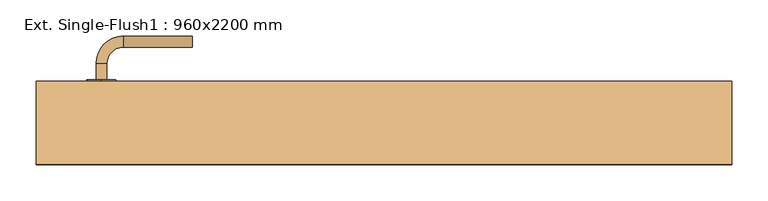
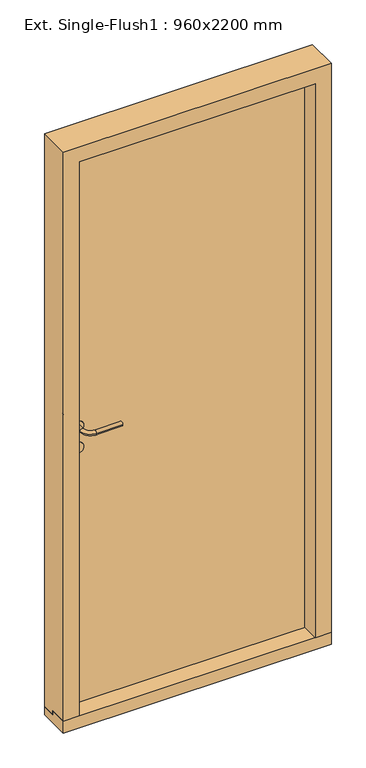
"""IFC4 building model written with IfcOpenShell, lengths in millimetres: door geometry, Ext. Single-Flush1 : 960x2200 mm."""

from ifc_helpers import new_model, si_unit, point, frame, frame_2d, origin, place, context, project, spatial, polyline, circle_curve, ellipse_curve, trimmed, segment, composite_curve, outline, extrude, faceted_brep, source, transform, mapped, element, save
from ifc_brep_helpers import plane_surface, cylinder_surface, revolved_surface, advanced_brep


def ext_single_flush1_960x2200_mm_7c25dc53(model_context):
    return source(origin(), model_context, "Body", "SolidModel", [
        extrude(outline(composite_curve([segment(trimmed(circle_curve(frame_2d((1090.0, -390.0)), 20.0), [point((1070.0, -390.0))], [point((1110.0, -390.0))], False, "CARTESIAN"), True, "CONTINUOUS"), segment(trimmed(circle_curve(frame_2d((1090.0, -390.0)), 20.0), [point((1110.0, -390.0))], [point((1070.0, -390.0))], False, "CARTESIAN"), True, "CONTINUOUS")], self_intersect=False)), frame((0.0, 190.0, 0.0), z_axis=(0.0, 1.0, 0.0), x_axis=(0.0, 0.0, 1.0)), (0.0, 0.0, 1.0), 2.0),
        advanced_brep(
        [(-397.5, 192.0, 1090.0), (-382.5, 192.0, 1090.0), (-397.5, 214.5, 1090.0), (-382.5, 214.5, 1090.0), (-360.0, 237.0, 1090.0), (-360.0, 252.0, 1090.0), (-265.0, 252.0, 1090.0), (-265.0, 237.0, 1090.0)],
        [
            (0, 1, circle_curve(frame((-390.0, 192.0, 1090.0), z_axis=(0.0, -1.0, 0.0), x_axis=(1.0, 0.0, 0.0)), 7.5)),
            (1, 0, circle_curve(frame((-390.0, 192.0, 1090.0), z_axis=(0.0, -1.0, 0.0), x_axis=(1.0, 0.0, 0.0)), 7.5)),
            (0, 2),
            (2, 3, circle_curve(frame((-390.0, 214.5, 1090.0), z_axis=(0.0, -1.0, 0.0), x_axis=(1.0, 0.0, 0.0)), 7.5)),
            (3, 1),
            (3, 2, circle_curve(frame((-390.0, 214.5, 1090.0), z_axis=(0.0, -1.0, 0.0), x_axis=(1.0, 0.0, 0.0)), 7.5)),
            (4, 3, circle_curve(frame((-360.0, 214.5, 1090.0), z_axis=(0.0, 0.0, 1.0), x_axis=(-1.0, 0.0, 0.0)), 22.5)),
            (2, 5, circle_curve(frame((-360.0, 214.5, 1090.0), z_axis=(0.0, 0.0, -1.0), x_axis=(-1.0, 0.0, 0.0)), 37.5)),
            (5, 4, circle_curve(frame((-360.0, 244.5, 1090.0), z_axis=(-1.0, 0.0, 0.0), x_axis=(0.0, -1.0, 0.0)), 7.5)),
            (4, 5, circle_curve(frame((-360.0, 244.5, 1090.0), z_axis=(-1.0, 0.0, 0.0), x_axis=(0.0, -1.0, 0.0)), 7.5)),
            (5, 6),
            (6, 7, circle_curve(frame((-265.0, 244.5, 1090.0), z_axis=(-1.0, 0.0, 0.0), x_axis=(0.0, -1.0, 0.0)), 7.5)),
            (7, 4),
            (7, 6, circle_curve(frame((-265.0, 244.5, 1090.0), z_axis=(-1.0, 0.0, 0.0), x_axis=(0.0, -1.0, 0.0)), 7.5)),
        ],
        [
            plane_surface(frame((-390.0, 192.0, 1090.0), z_axis=(0.0, -1.0, 0.0), x_axis=(0.0, 0.0, -1.0))),
            cylinder_surface(frame((-390.0, 192.0, 1090.0), z_axis=(0.0, -1.0, 0.0), x_axis=(1.0, 0.0, 0.0)), 7.5),
            revolved_surface(trimmed(ellipse_curve(frame((-390.0, 214.5, 1090.0), z_axis=(0.0, -1.0, 0.0), x_axis=(1.0, 0.0, 0.0)), 7.5, 7.5), [point((-397.5, 214.5, 1090.0))], [point((-382.5, 214.5, 1090.0))], True, "CARTESIAN"), (-360.0, 214.5, 1090.0), (0.0, 0.0, -1.0)),
            revolved_surface(trimmed(ellipse_curve(frame((-390.0, 214.5, 1090.0), z_axis=(0.0, -1.0, 0.0), x_axis=(1.0, 0.0, 0.0)), 7.5, 7.5), [point((-382.5, 214.5, 1090.0))], [point((-397.5, 214.5, 1090.0))], True, "CARTESIAN"), (-360.0, 214.5, 1090.0), (0.0, 0.0, -1.0)),
            cylinder_surface(frame((-360.0, 244.5, 1090.0), z_axis=(-1.0, 0.0, 0.0), x_axis=(0.0, -1.0, 0.0)), 7.5),
            plane_surface(frame((-265.0, 244.5, 1090.0), z_axis=(1.0, 0.0, 0.0), x_axis=(0.0, 0.0, -1.0))),
        ],
        [
            (0, [[1, 2]]),
            (1, [[-1, 3, 4, 5]]),
            (1, [[-2, -5, 6, -3]]),
            (2, [[7, -4, 8, 9]]),
            (3, [[-8, -6, -7, 10]]),
            (4, [[-9, 11, 12, 13]]),
            (4, [[-10, -13, 14, -11]]),
            (5, [[-14, -12]]),
        ],
    ),
        extrude(outline(composite_curve([segment(trimmed(circle_curve(frame_2d((1010.0, -390.0)), 20.0), [point((990.0, -390.0))], [point((1030.0, -390.0))], False, "CARTESIAN"), True, "CONTINUOUS"), segment(trimmed(circle_curve(frame_2d((1010.0, -390.0)), 20.0), [point((1030.0, -390.0))], [point((990.0, -390.0))], False, "CARTESIAN"), True, "CONTINUOUS")], self_intersect=False), holes=[composite_curve([segment(trimmed(circle_curve(frame_2d((1015.0, -390.0)), 3.0), [point((1012.4019238, -391.5))], [point((1012.4019238, -388.5))], True, "CARTESIAN"), True, "CONTINUOUS"), segment(polyline([(1012.4019238, -388.5), (1000.0, -388.5), (1000.0, -391.5), (1012.4019238, -391.5)]), True, "CONTINUOUS")], self_intersect=False)]), frame((0.0, 190.0, 0.0), z_axis=(0.0, 1.0, 0.0), x_axis=(0.0, 0.0, 1.0)), (0.0, 0.0, 1.0), 2.0),
        extrude(outline(composite_curve([segment(trimmed(circle_curve(frame_2d((1090.0, -390.0)), 20.0), [point((1070.0, -390.0))], [point((1110.0, -390.0))], False, "CARTESIAN"), True, "CONTINUOUS"), segment(trimmed(circle_curve(frame_2d((1090.0, -390.0)), 20.0), [point((1110.0, -390.0))], [point((1070.0, -390.0))], False, "CARTESIAN"), True, "CONTINUOUS")], self_intersect=False)), frame((0.0, 138.0, 0.0), z_axis=(0.0, 1.0, 0.0), x_axis=(0.0, 0.0, 1.0)), (0.0, 0.0, 1.0), 2.0),
        advanced_brep(
        [(-397.5, 138.0, 1090.0), (-382.5, 138.0, 1090.0), (-382.5, 115.5, 1090.0), (-397.5, 115.5, 1090.0), (-360.0, 93.0, 1090.0), (-360.0, 78.0, 1090.0), (-265.0, 93.0, 1090.0), (-265.0, 78.0, 1090.0)],
        [
            (0, 1, circle_curve(frame((-390.0, 138.0, 1090.0), z_axis=(0.0, 1.0, 0.0), x_axis=(1.0, 0.0, 0.0)), 7.5)),
            (1, 0, circle_curve(frame((-390.0, 138.0, 1090.0), z_axis=(0.0, 1.0, 0.0), x_axis=(1.0, 0.0, 0.0)), 7.5)),
            (1, 2),
            (2, 3, circle_curve(frame((-390.0, 115.5, 1090.0), z_axis=(0.0, 1.0, 0.0), x_axis=(1.0, 0.0, 0.0)), 7.5)),
            (3, 0),
            (3, 2, circle_curve(frame((-390.0, 115.5, 1090.0), z_axis=(0.0, 1.0, 0.0), x_axis=(1.0, 0.0, 0.0)), 7.5)),
            (4, 5, circle_curve(frame((-360.0, 85.5, 1090.0), z_axis=(-1.0, 0.0, 0.0), x_axis=(0.0, 1.0, 0.0)), 7.5)),
            (5, 3, circle_curve(frame((-360.0, 115.5, 1090.0), z_axis=(0.0, 0.0, -1.0), x_axis=(-1.0, 0.0, 0.0)), 37.5)),
            (2, 4, circle_curve(frame((-360.0, 115.5, 1090.0), z_axis=(0.0, 0.0, 1.0), x_axis=(-1.0, 0.0, 0.0)), 22.5)),
            (5, 4, circle_curve(frame((-360.0, 85.5, 1090.0), z_axis=(-1.0, 0.0, 0.0), x_axis=(0.0, 1.0, 0.0)), 7.5)),
            (4, 6),
            (6, 7, circle_curve(frame((-265.0, 85.5, 1090.0), z_axis=(-1.0, 0.0, 0.0), x_axis=(0.0, 1.0, 0.0)), 7.5)),
            (7, 5),
            (7, 6, circle_curve(frame((-265.0, 85.5, 1090.0), z_axis=(-1.0, 0.0, 0.0), x_axis=(0.0, 1.0, 0.0)), 7.5)),
        ],
        [
            plane_surface(frame((-390.0, 138.0, 1090.0), z_axis=(0.0, 1.0, 0.0), x_axis=(0.0, 0.0, -1.0))),
            cylinder_surface(frame((-390.0, 138.0, 1090.0), z_axis=(0.0, 1.0, 0.0), x_axis=(1.0, 0.0, 0.0)), 7.5),
            revolved_surface(trimmed(ellipse_curve(frame((-390.0, 115.5, 1090.0), z_axis=(0.0, -1.0, 0.0), x_axis=(1.0, 0.0, 0.0)), 7.5, 7.5), [point((-397.5, 115.5, 1090.0))], [point((-382.5, 115.5, 1090.0))], True, "CARTESIAN"), (-360.0, 115.5, 1090.0), (0.0, 0.0, -1.0)),
            revolved_surface(trimmed(ellipse_curve(frame((-390.0, 115.5, 1090.0), z_axis=(0.0, -1.0, 0.0), x_axis=(1.0, 0.0, 0.0)), 7.5, 7.5), [point((-382.5, 115.5, 1090.0))], [point((-397.5, 115.5, 1090.0))], True, "CARTESIAN"), (-360.0, 115.5, 1090.0), (0.0, 0.0, -1.0)),
            cylinder_surface(frame((-360.0, 85.5, 1090.0), z_axis=(-1.0, 0.0, 0.0), x_axis=(0.0, 1.0, 0.0)), 7.5),
            plane_surface(frame((-265.0, 85.5, 1090.0), z_axis=(1.0, 0.0, 0.0), x_axis=(0.0, 0.0, -1.0))),
        ],
        [
            (0, [[1, 2]]),
            (1, [[3, 4, 5, -2]]),
            (1, [[-5, 6, -3, -1]]),
            (2, [[7, 8, -4, 9]]),
            (3, [[10, -9, -6, -8]]),
            (4, [[11, 12, 13, -7]]),
            (4, [[-13, 14, -11, -10]]),
            (5, [[-12, -14]]),
        ],
    ),
        extrude(outline(composite_curve([segment(trimmed(circle_curve(frame_2d((1010.0, -390.0)), 20.0), [point((990.0, -390.0))], [point((1030.0, -390.0))], False, "CARTESIAN"), True, "CONTINUOUS"), segment(trimmed(circle_curve(frame_2d((1010.0, -390.0)), 20.0), [point((1030.0, -390.0))], [point((990.0, -390.0))], False, "CARTESIAN"), True, "CONTINUOUS")], self_intersect=False), holes=[composite_curve([segment(trimmed(circle_curve(frame_2d((1015.0, -390.0)), 3.0), [point((1012.4019238, -391.5))], [point((1012.4019238, -388.5))], True, "CARTESIAN"), True, "CONTINUOUS"), segment(polyline([(1012.4019238, -388.5), (1000.0, -388.5), (1000.0, -391.5), (1012.4019238, -391.5)]), True, "CONTINUOUS")], self_intersect=False)]), frame((0.0, 138.0, 0.0), z_axis=(0.0, 1.0, 0.0), x_axis=(0.0, 0.0, 1.0)), (0.0, 0.0, 1.0), 2.0),
        extrude(outline(polyline([(-438.0, 190.0), (438.0, 190.0), (438.0, 140.0), (-438.0, 140.0), (-438.0, 190.0)])), frame((0.0, 0.0, 30.0), z_axis=(0.0, 0.0, 1.0), x_axis=(1.0, 0.0, 0.0)), (0.0, 0.0, 1.0), 2128.0),
        faceted_brep([(438.0, 190.0, 2158.0), (-438.0, 190.0, 2158.0), (-438.0, 190.0, 30.0), (-480.0, 190.0, 30.0), (-480.0, 190.0, 2200.0), (480.0, 190.0, 2200.0), (480.0, 190.0, 30.0), (438.0, 190.0, 30.0), (-438.0, 140.0, 2158.0), (-438.0, 140.0, 45.0), (-438.0, 140.0, 30.0), (480.0, 140.0, 30.0), (438.0, 140.0, 30.0), (-480.0, 140.0, 30.0), (-480.0, 75.0, 2200.0), (-480.0, 140.0, 45.0), (-480.0, 75.0, 45.0), (480.0, 75.0, 2200.0), (480.0, 75.0, 45.0), (480.0, 140.0, 45.0), (438.0, 140.0, 2158.0), (438.0, 140.0, 45.0), (-423.0, 75.0, 45.0), (-423.0, 75.0, 2143.0), (423.0, 75.0, 2143.0), (423.0, 75.0, 45.0), (423.0, 140.0, 45.0), (-423.0, 140.0, 45.0), (-423.0, 140.0, 2143.0), (423.0, 140.0, 2143.0)], [[[0, 1, 2, 3, 4, 5, 6, 7]], [[1, 8, 9, 10, 2]], [[11, 12, 7, 6]], [[10, 13, 3, 2]], [[14, 4, 3, 13, 15, 16]], [[5, 17, 18, 19, 11, 6]], [[20, 0, 7, 12, 21]], [[17, 14, 16, 22, 23, 24, 25, 18]], [[21, 19, 18, 25, 26]], [[15, 9, 27, 22, 16]], [[19, 21, 12, 11]], [[9, 15, 13, 10]], [[28, 23, 22, 27]], [[24, 29, 26, 25]], [[29, 28, 27, 9, 8, 20, 21, 26]], [[5, 4, 14, 17]], [[24, 23, 28, 29]], [[1, 0, 20, 8]]]),
        extrude(outline(polyline([(190.0, 30.0), (190.0, 0.0), (75.0, 0.0), (75.0, 45.0), (140.0, 45.0), (140.0, 30.0), (190.0, 30.0)])), frame((-480.0, 0.0, 0.0), z_axis=(1.0, 0.0, 0.0), x_axis=(0.0, 1.0, 0.0)), (0.0, 0.0, 1.0), 960.0),
    ])


if __name__ == "__main__":
    model = new_model("IFC4")
    model_context = context("Model", 3, world=origin())
    ifc_project = project(units=[si_unit("LENGTHUNIT", "METRE", prefix="MILLI")], contexts=[model_context])
    site = spatial("IfcSite", under=ifc_project)
    building = spatial("IfcBuilding", under=site)
    placement = place(None, origin())
    ext_single_flush1_960x2200_mm_shape = ext_single_flush1_960x2200_mm_7c25dc53(model_context)
    element("IfcDoor", 1, ObjectType="Ext. Single-Flush1 : 960x2200 mm", at=placement, inside=building, context=model_context, shape_type="MappedRepresentation", body=[
        mapped(ext_single_flush1_960x2200_mm_shape, transform((0.0, 0.0, 0.0), x_axis=(1.0, 0.0, 0.0), y_axis=(0.0, 1.0, 0.0), z_axis=(0.0, 0.0, 1.0))),
    ])
    save(model, "model.ifc")
